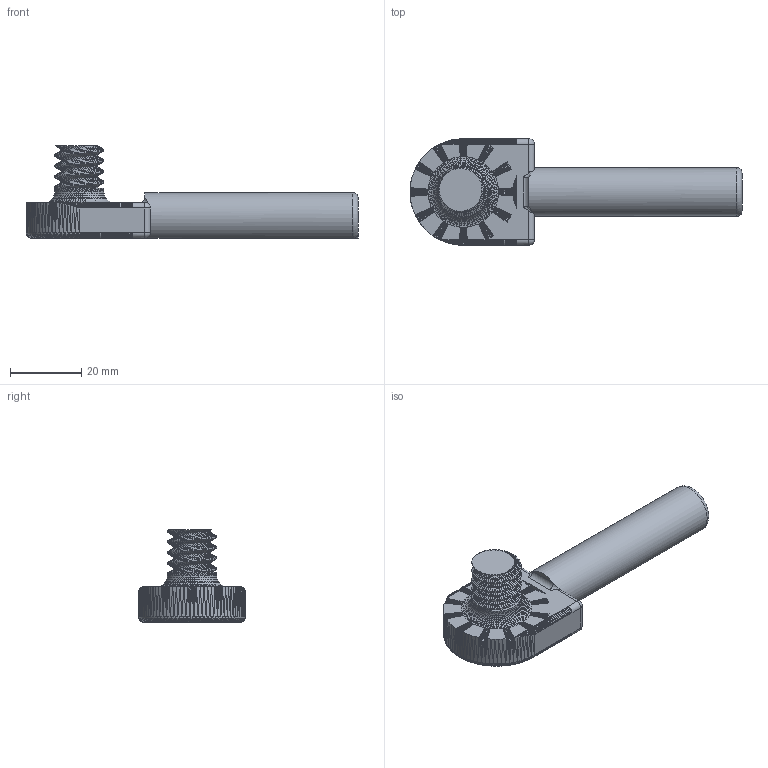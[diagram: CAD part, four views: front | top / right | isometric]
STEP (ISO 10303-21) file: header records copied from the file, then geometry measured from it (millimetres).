
FILE_DESCRIPTION(('FreeCAD Model'),'2;1');
FILE_NAME('Open CASCADE Shape Model','2025-11-13T17:14:58',(''),(''), 'Open CASCADE STEP processor 7.8','FreeCAD','Unknown');
FILE_SCHEMA(('AUTOMOTIVE_DESIGN { 1 0 10303 214 1 1 1 1 }'));
Products named in the file (1): Body
Bounding box: 93.5 x 30 x 26 mm (x, y, z)
Volume: 19367.2 mm3; surface area: 6520.4 mm2
Topology: 1 solids, 1 shells, 6919 faces, 10902 edges, 3987 vertices
Faces by surface type: plane 6898, cylinder 12, bspline 4, sphere 4, torus 1
Entity records: 140395 total; most frequent: DIRECTION 24761, CARTESIAN_POINT 22551, ORIENTED_EDGE 21796, EDGE_CURVE 10898, LINE 10831, VECTOR 10831, AXIS2_PLACEMENT_3D 6965, FACE_BOUND 6925
